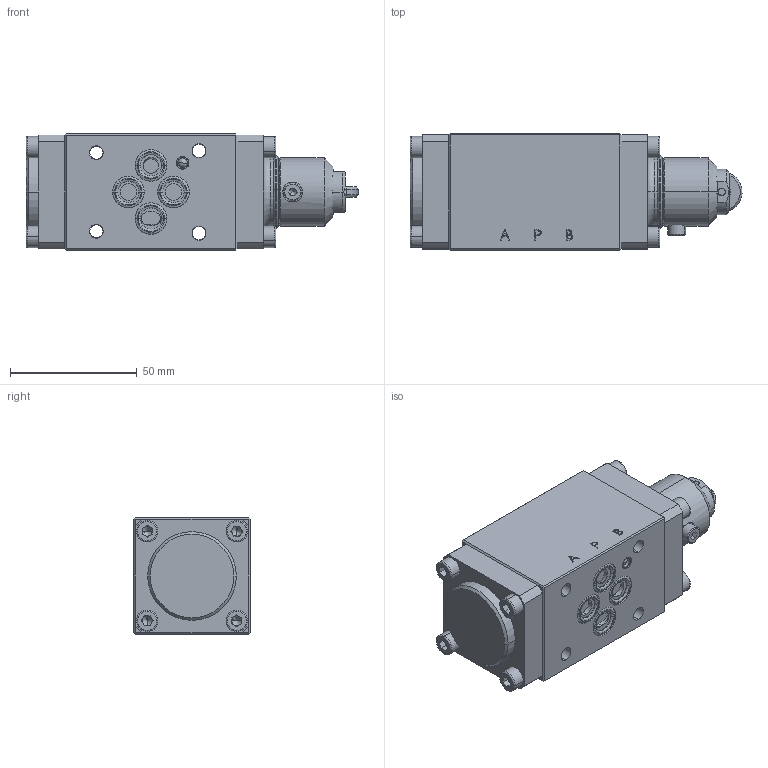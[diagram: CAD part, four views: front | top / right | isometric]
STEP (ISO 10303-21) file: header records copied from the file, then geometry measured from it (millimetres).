
FILE_DESCRIPTION (( 'STEP AP214' ), '1' );
FILE_NAME ('WDTFA06-4_2-Bside.STEP', '2019-06-25T13:30:33', ( '' ), ( '' ), 'SwSTEP 2.0', 'SolidWorks 2018', '' );
FILE_SCHEMA (( 'AUTOMOTIVE_DESIGN' ));
Length unit declared in the file: millimetre
Products named in the file (1): WDTFA06-4_2-Bside
Bounding box: 131.07 x 46 x 46 mm (x, y, z)
Volume: 201235.2 mm3; surface area: 34316.7 mm2
Topology: 7 solids, 21 shells, 659 faces, 1512 edges, 926 vertices
Faces by surface type: plane 279, cylinder 190, cone 82, bspline 53, torus 47, sphere 8
Entity records: 27374 total; most frequent: CARTESIAN_POINT 5217, DIRECTION 3242, ORIENTED_EDGE 2964, EDGE_CURVE 1482, AXIS2_PLACEMENT_3D 1274, VERTEX_POINT 926, EDGE_LOOP 760, LINE 694
